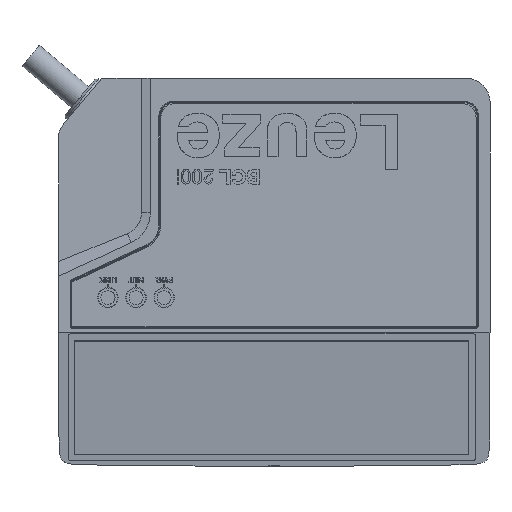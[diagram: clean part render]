
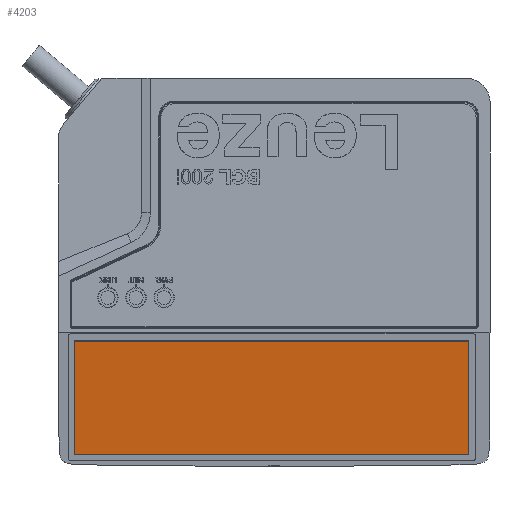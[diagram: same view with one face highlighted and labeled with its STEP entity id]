
A CAD part, top view. The second image highlights one B-rep face of the part: STEP entity #4203.
In plain terms, the highlighted planar face has unit normal (0, -0.139, 0.99).
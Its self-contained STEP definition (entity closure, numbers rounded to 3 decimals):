
#3153=FACE_OUTER_BOUND('',#6269,.T.);
#4203=ADVANCED_FACE('',(#3153),#5016,.T.);
#5016=PLANE('',#19036);
#6269=EDGE_LOOP('',(#11416,#11417,#11418,#11419));
#7576=LINE('',#35274,#8894);
#7579=LINE('',#35280,#8897);
#7581=LINE('',#35284,#8899);
#7582=LINE('',#35286,#8900);
#8894=VECTOR('',#21577,1.);
#8897=VECTOR('',#21582,1.);
#8899=VECTOR('',#21586,1.);
#8900=VECTOR('',#21589,1.);
#11416=ORIENTED_EDGE('',*,*,#16720,.T.);
#11417=ORIENTED_EDGE('',*,*,#16723,.T.);
#11418=ORIENTED_EDGE('',*,*,#16725,.T.);
#11419=ORIENTED_EDGE('',*,*,#16726,.T.);
#14917=VERTEX_POINT('',#35273);
#14918=VERTEX_POINT('',#35275);
#14919=VERTEX_POINT('',#35279);
#14920=VERTEX_POINT('',#35283);
#16720=EDGE_CURVE('',#14918,#14917,#7576,.T.);
#16723=EDGE_CURVE('',#14917,#14919,#7579,.T.);
#16725=EDGE_CURVE('',#14919,#14920,#7581,.T.);
#16726=EDGE_CURVE('',#14920,#14918,#7582,.T.);
#19036=AXIS2_PLACEMENT_3D('',#35288,#21592,#21593);
#21577=DIRECTION('',(-1.,0.,0.));
#21582=DIRECTION('',(0.,-0.99,-0.139));
#21586=DIRECTION('',(1.,0.,0.));
#21589=DIRECTION('',(0.,0.99,0.139));
#21592=DIRECTION('',(0.,-0.139,0.99));
#21593=DIRECTION('',(0.,-0.99,-0.139));
#35273=CARTESIAN_POINT('',(2.804,27.343,20.535));
#35274=CARTESIAN_POINT('',(87.104,27.343,20.535));
#35275=CARTESIAN_POINT('',(87.104,27.343,20.535));
#35279=CARTESIAN_POINT('',(2.804,3.181,17.139));
#35280=CARTESIAN_POINT('',(2.804,27.343,20.535));
#35283=CARTESIAN_POINT('',(87.104,3.181,17.139));
#35284=CARTESIAN_POINT('',(2.804,3.181,17.139));
#35286=CARTESIAN_POINT('',(87.104,3.181,17.139));
#35288=CARTESIAN_POINT('',(2.804,27.343,20.535));
